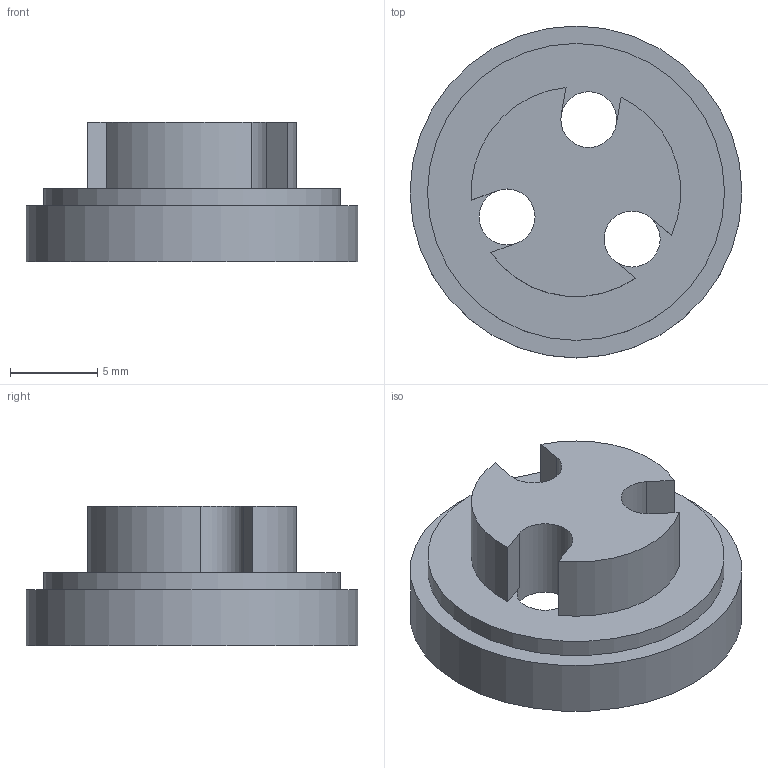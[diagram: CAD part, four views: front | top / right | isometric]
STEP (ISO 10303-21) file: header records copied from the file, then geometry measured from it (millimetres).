
FILE_DESCRIPTION(/* description */ (''),/* implementation_level */ '2;1');
FILE_NAME(/* name */ '3-21-2 Wheel cap TPU.step',/* time_stamp */ '2025-05-10T22:05:16+02:00',/* author */ (''),/* organization */ (''),/* preprocessor_version */ 'ST-DEVELOPER v20.1',/* originating_system */ 'Autodesk Translation Framework v14.4.0.0',/* authorisation */ '');
FILE_SCHEMA (('AUTOMOTIVE_DESIGN { 1 0 10303 214 3 1 1 }'));
Length unit declared in the file: millimetre
Products named in the file (1): Front wheels_Cap v1(Spiegeln)
Bounding box: 19 x 19 x 8 mm (x, y, z)
Volume: 1036.6 mm3; surface area: 1141.7 mm2
Topology: 1 solids, 1 shells, 25 faces, 68 edges, 45 vertices
Faces by surface type: cylinder 14, plane 11
Full cylindrical faces by diameter (mm): 3.2 x3, 17 x1, 19 x1
Entity records: 859 total; most frequent: DIRECTION 153, CARTESIAN_POINT 139, ORIENTED_EDGE 136, EDGE_CURVE 68, AXIS2_PLACEMENT_3D 59, VERTEX_POINT 45, LINE 35, VECTOR 35
